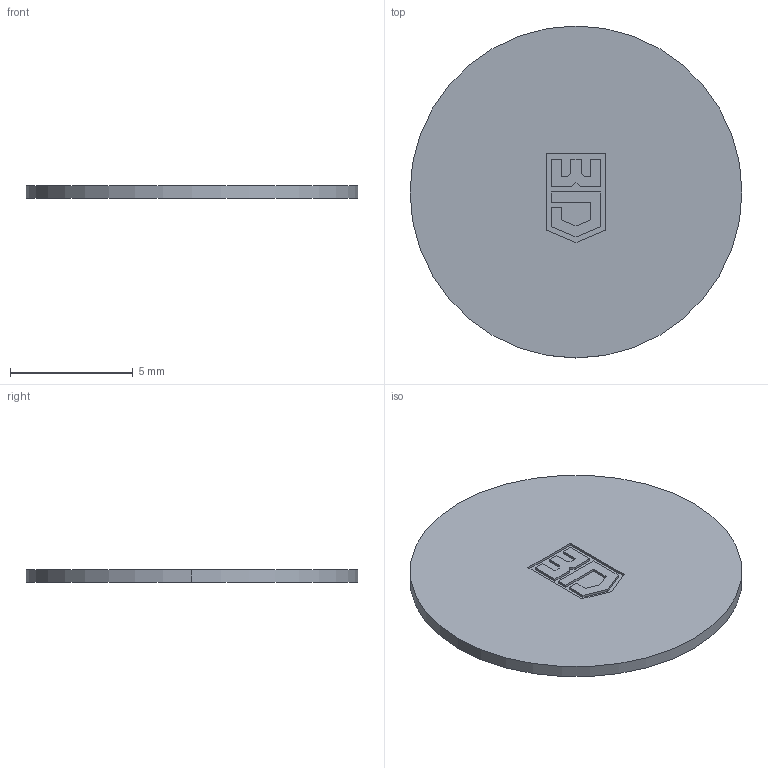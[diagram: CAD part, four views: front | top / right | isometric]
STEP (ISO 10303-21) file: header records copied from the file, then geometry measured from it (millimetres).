
FILE_DESCRIPTION (( 'STEP AP203' ), '1' );
FILE_NAME ('309 S.STEP', '2007-02-21T07:51:41', ( ' ' ), ( '' ), 'SwSTEP 2.0', 'SolidWorks 2005278', '' );
FILE_SCHEMA (( 'CONFIG_CONTROL_DESIGN' ));
Length unit declared in the file: millimetre
Products named in the file (1): 309 S
Bounding box: 13.5 x 13.5 x 0.5 mm (x, y, z)
Volume: 71.1 mm3; surface area: 310.7 mm2
Topology: 1 solids, 1 shells, 41 faces, 108 edges, 72 vertices
Faces by surface type: plane 39, cylinder 2
Entity records: 1323 total; most frequent: CARTESIAN_POINT 222, ORIENTED_EDGE 216, DIRECTION 196, EDGE_CURVE 108, VECTOR 104, LINE 104, VERTEX_POINT 72, AXIS2_PLACEMENT_3D 46
